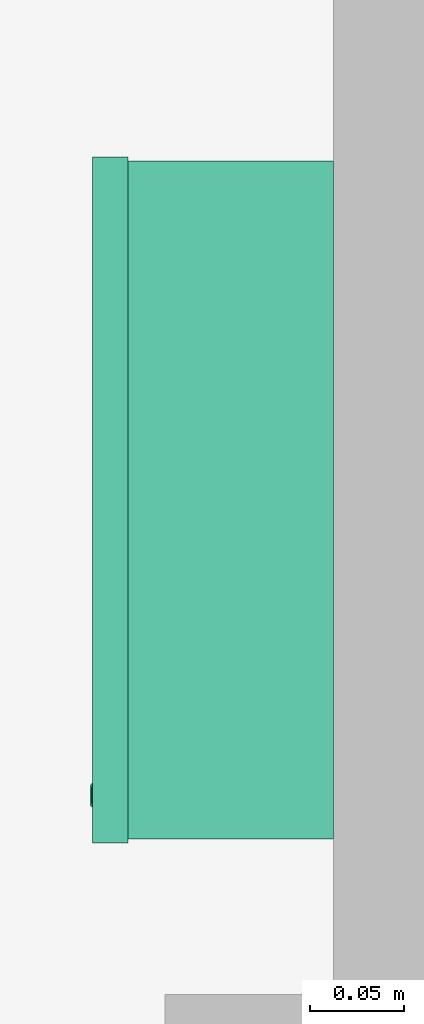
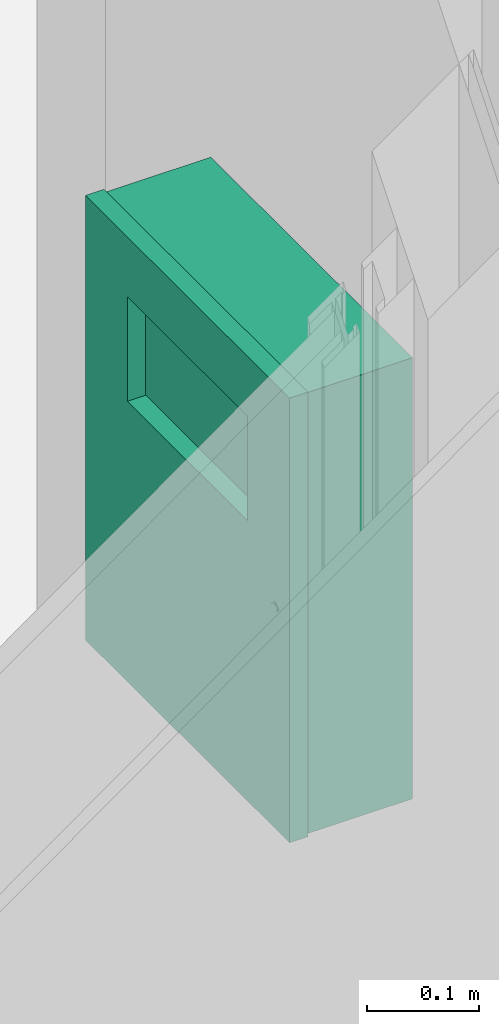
# One storey, part 46 of 49: 1 distribution control element.
"""IFC2X3 building model written with IfcOpenShell, lengths in millimetres."""

from ifc_helpers import new_model, entity, si_unit, converted_unit, derived_unit, direction, frame, origin, place, context, subcontext, project, spatial, faceted_brep, source, transform, mapped, material, type_object, type_shapes, element, save


model = new_model("IFC2X3")

# Units and contexts
model_context = context("Model", 3, precision=0.01, world=origin(), true_north=direction((6.12303176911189e-17, 1.0)))
body_context = subcontext(model_context, "Body", "Model", "MODEL_VIEW")
ifc_project = project(units=[si_unit("LENGTHUNIT", "METRE", prefix="MILLI"), si_unit("AREAUNIT", "SQUARE_METRE"), si_unit("VOLUMEUNIT", "CUBIC_METRE"), converted_unit("PLANEANGLEUNIT", "DEGREE", entity("IfcRatioMeasure", 0.0174532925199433), si_unit("PLANEANGLEUNIT", "RADIAN"), dimensions=[0, 0, 0, 0, 0, 0, 0]), si_unit("MASSUNIT", "GRAM", prefix="KILO"), derived_unit("MASSDENSITYUNIT", [(si_unit("MASSUNIT", "GRAM", prefix="KILO"), 1), (si_unit("LENGTHUNIT", "METRE"), -3)]), si_unit("TIMEUNIT", "SECOND"), si_unit("FREQUENCYUNIT", "HERTZ"), si_unit("THERMODYNAMICTEMPERATUREUNIT", "DEGREE_CELSIUS"), derived_unit("THERMALTRANSMITTANCEUNIT", [(si_unit("MASSUNIT", "GRAM", prefix="KILO"), 1), (si_unit("THERMODYNAMICTEMPERATUREUNIT", "KELVIN"), -1), (si_unit("TIMEUNIT", "SECOND"), -3)]), derived_unit("VOLUMETRICFLOWRATEUNIT", [(si_unit("LENGTHUNIT", "METRE"), 3), (si_unit("TIMEUNIT", "SECOND"), -1)]), si_unit("ELECTRICCURRENTUNIT", "AMPERE"), si_unit("ELECTRICVOLTAGEUNIT", "VOLT"), si_unit("POWERUNIT", "WATT"), si_unit("FORCEUNIT", "NEWTON", prefix="KILO"), si_unit("ILLUMINANCEUNIT", "LUX"), si_unit("LUMINOUSFLUXUNIT", "LUMEN"), si_unit("LUMINOUSINTENSITYUNIT", "CANDELA"), derived_unit("USERDEFINED", [(si_unit("MASSUNIT", "GRAM", prefix="KILO"), -1), (si_unit("LENGTHUNIT", "METRE"), -2), (si_unit("TIMEUNIT", "SECOND"), 3), (si_unit("LUMINOUSFLUXUNIT", "LUMEN"), 1)]), derived_unit("LINEARVELOCITYUNIT", [(si_unit("LENGTHUNIT", "METRE"), 1), (si_unit("TIMEUNIT", "SECOND"), -1)]), si_unit("PRESSUREUNIT", "PASCAL"), derived_unit("USERDEFINED", [(si_unit("LENGTHUNIT", "METRE"), -2), (si_unit("MASSUNIT", "GRAM", prefix="KILO"), 1), (si_unit("TIMEUNIT", "SECOND"), -2)])], contexts=[model_context])

# Site, building, storey, space
site_placement = place(None, frame((-151.875543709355, 2715.0, 0.0)))
site = spatial("IfcSite", under=ifc_project, at=site_placement, Name="Surface", CompositionType="ELEMENT")
building_placement = place(site_placement, origin())
building = spatial("IfcBuilding", under=site, at=building_placement, CompositionType="ELEMENT")
storey_placement = place(building_placement, origin())
storey = spatial("IfcBuildingStorey", under=building, at=storey_placement, Name="1 korrus", CompositionType="ELEMENT", Elevation=3.0969999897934e-10)
space_placement = place(storey_placement, origin())
space = spatial("IfcSpace", under=storey, at=space_placement, Name="101", CompositionType="ELEMENT", InteriorOrExteriorSpace="INTERNAL")

# Distribution control element
ifc_material = material(Name="Steel - Kidde Fenwal - Red")
alarm_type = type_object("IfcAlarmType", Name="ATS", PredefinedType="NOTDEFINED", material=ifc_material)
shared_shape = source(origin(), body_context, "Body", "Brep", [
    faceted_brep([(182.956200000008, 243.281200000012, 109.550200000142), (182.956200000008, -243.281199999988, 109.550200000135), (-182.956199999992, -243.281199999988, 109.550200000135), (-182.956199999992, 243.281200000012, 109.550200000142), (107.950000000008, 63.5000000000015, 109.550200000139), (107.950000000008, 177.800000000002, 109.550200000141), (-107.949999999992, 177.800000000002, 109.550200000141), (-107.949999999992, 63.5000000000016, 109.550200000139), (182.956200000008, 243.281200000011, 128.600200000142), (-182.956199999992, 243.281200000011, 128.600200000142), (-182.956199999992, -243.281199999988, 128.600200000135), (182.956200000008, -243.281199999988, 128.600200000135), (107.950000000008, 63.5000000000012, 128.600200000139), (-107.949999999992, 63.5000000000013, 128.600200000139), (-107.949999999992, 177.800000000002, 128.600200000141), (107.950000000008, 177.800000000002, 128.600200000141)], [[[0, 1, 2, 3], [4, 5, 6, 7]], [[8, 9, 10, 11], [12, 13, 14, 15]], [[9, 8, 0, 3]], [[10, 9, 3, 2]], [[11, 10, 2, 1]], [[8, 11, 1, 0]], [[13, 12, 4, 7]], [[14, 13, 7, 6]], [[15, 14, 6, 5]], [[12, 15, 5, 4]]]),
    faceted_brep([(180.975000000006, 241.299999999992, 109.550200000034), (-180.974999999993, 241.299999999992, 109.550200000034), (-180.974999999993, -241.300000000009, 109.550200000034), (180.975000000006, -241.300000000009, 109.550200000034), (180.975000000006, 241.299999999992, 0.0), (180.975000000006, -241.300000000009, 0.0), (-180.974999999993, -241.300000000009, 0.0), (-180.974999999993, 241.299999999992, 0.0)], [[[0, 1, 2, 3]], [[4, 5, 6, 7]], [[1, 0, 4, 7]], [[2, 1, 7, 6]], [[3, 2, 6, 5]], [[0, 3, 5, 4]]]),
    faceted_brep([(154.923990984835, 4.55911975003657, 129.685781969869), (157.556199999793, 0.0, 129.685781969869), (162.820618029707, 0.0, 129.685781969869), (152.291781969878, 0.0, 129.685781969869), (160.18840901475, -4.55911975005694, 129.685781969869), (154.381200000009, 5.49926131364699, 128.600200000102), (151.368038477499, 0.0, 128.990912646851), (157.556199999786, 6.2551324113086, 129.044016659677), (163.588240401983, 0.0, 129.367822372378), (157.556199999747, 5.89698864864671, 129.482437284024), (163.204429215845, 0.0, 129.526802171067), (163.744361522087, 0.0, 128.990912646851), (163.906199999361, 0.0, 128.600200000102), (151.901875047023, 0.0, 129.524277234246), (151.524159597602, 0.0, 129.367822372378), (151.206200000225, 0.0, 128.600200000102), (160.731199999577, -5.49926131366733, 128.600200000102), (157.556199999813, -6.2551324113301, 129.044016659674), (157.55619999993, -5.89698864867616, 129.482437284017), (157.556199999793, 0.0, 128.600200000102)], [[[0, 1, 2]], [[1, 0, 3]], [[4, 1, 3]], [[1, 4, 2]], [[5, 6, 7]], [[8, 7, 9]], [[0, 10, 9]], [[7, 8, 11, 12]], [[10, 0, 2]], [[0, 9, 13]], [[9, 7, 14]], [[5, 15, 6]], [[12, 5, 7]], [[3, 0, 13]], [[14, 7, 6]], [[14, 13, 9]], [[10, 8, 9]], [[16, 11, 17]], [[14, 17, 18]], [[4, 13, 18]], [[17, 14, 6, 15]], [[13, 4, 3]], [[4, 18, 10]], [[18, 17, 8]], [[16, 12, 11]], [[15, 16, 17]], [[2, 4, 10]], [[8, 17, 11]], [[8, 10, 18]], [[13, 14, 18]], [[12, 19, 5]], [[12, 16, 19]], [[15, 19, 16]], [[15, 5, 19]]]),
])
type_shapes(alarm_type, [shared_shape])
distribution_control_element_placement = place(space_placement, frame((5552.1033287, -370.095367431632, 1000.0), z_axis=(-1.0, 0.0, 0.0), x_axis=(0.0, -1.0, 0.0)))
element("IfcDistributionControlElement", 1, at=distribution_control_element_placement, inside=space, type_object=alarm_type, material=ifc_material, Name="Control_Unit-Suppression_System-Kidde_Fire_Systems-ARIES:ATS", ObjectType="ATS", context=body_context, shape_type="MappedRepresentation", body=[
    mapped(shared_shape, transform((0.0, 0.0, 0.0), scale=1.0)),
])

save(model, "model.ifc")
